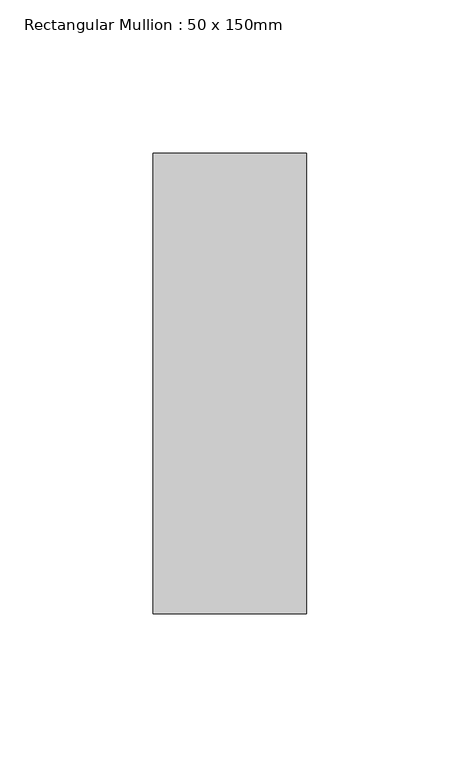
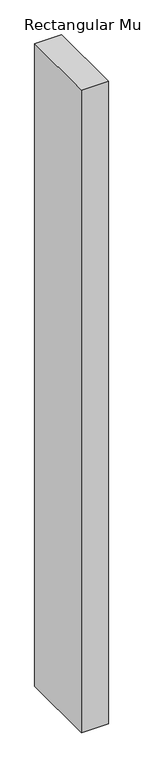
"""IFC4 building model written with IfcOpenShell, lengths in millimetres: member geometry, Rectangular Mullion : 50 x 150mm."""

from ifc_helpers import new_model, si_unit, frame, origin, place, context, project, spatial, polyline, outline, extrude, source, transform, mapped, element, save


def rectangular_mullion_50_x_150mm_5b05112e(model_context):
    return source(origin(), model_context, "Body", "SweptSolid", [
        extrude(outline(polyline([(25.0, 75.0), (25.0, -75.0), (-25.0, -75.0), (-25.0, 75.0), (25.0, 75.0)])), frame((0.0, 0.0, -1261.6666668), z_axis=(0.0, 0.0, 1.0), x_axis=(1.0, 0.0, 0.0)), (0.0, 0.0, 1.0), 1261.6666668),
    ])


if __name__ == "__main__":
    model = new_model("IFC4")
    model_context = context("Model", 3, world=origin())
    ifc_project = project(units=[si_unit("LENGTHUNIT", "METRE", prefix="MILLI")], contexts=[model_context])
    site = spatial("IfcSite", under=ifc_project)
    building = spatial("IfcBuilding", under=site)
    placement = place(None, origin())
    rectangular_mullion_50_x_150mm_shape = rectangular_mullion_50_x_150mm_5b05112e(model_context)
    element("IfcMember", 1, ObjectType="Rectangular Mullion : 50 x 150mm", at=placement, inside=building, context=model_context, shape_type="MappedRepresentation", body=[
        mapped(rectangular_mullion_50_x_150mm_shape, transform((0.0, 0.0, 0.0), x_axis=(1.0, 0.0, 0.0), y_axis=(0.0, 1.0, 0.0), z_axis=(0.0, 0.0, 1.0))),
    ])
    save(model, "model.ifc")
